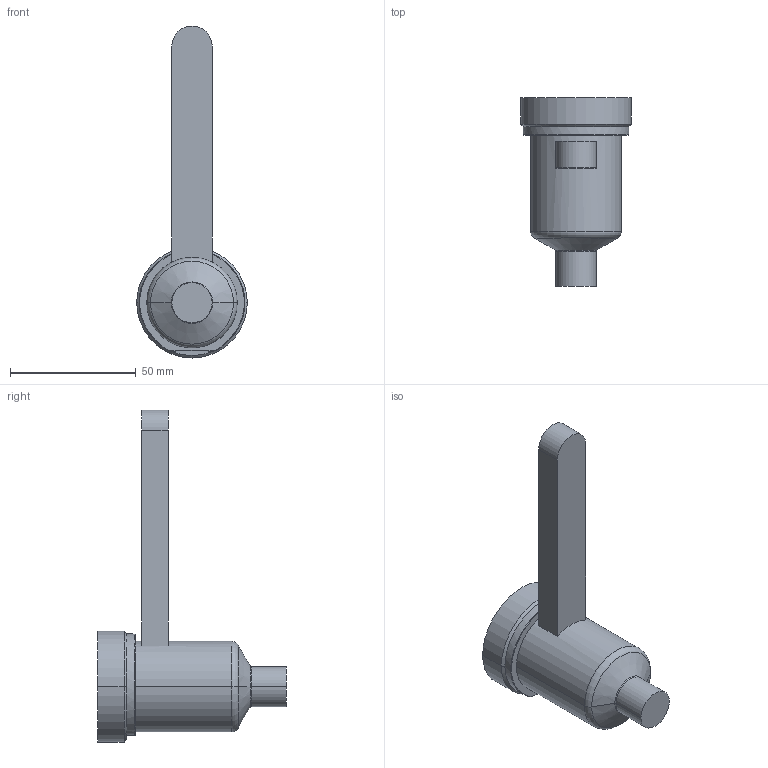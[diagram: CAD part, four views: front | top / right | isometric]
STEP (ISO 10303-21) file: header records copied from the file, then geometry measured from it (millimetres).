
FILE_DESCRIPTION((''),'2;1');
FILE_NAME('EO12_VG-FBE_STD_050_COT','2024-02-19T14:03:04',('sundharh'),(''),'CREO PARAMETRIC BY PTC INC, 2023154','CREO PARAMETRIC BY PTC INC, 2023154','');
FILE_SCHEMA(('CONFIG_CONTROL_DESIGN'));
Length unit declared in the file: millimetre
Products named in the file (1): EO12_VG-FBE_STD_050_COT
Bounding box: 44 x 75 x 132 mm (x, y, z)
Volume: 84151.1 mm3; surface area: 15121 mm2
Topology: 1 solids, 1 shells, 31 faces, 67 edges, 40 vertices
Faces by surface type: cylinder 11, plane 9, torus 7, cone 4
Entity records: 951 total; most frequent: CARTESIAN_POINT 218, DIRECTION 159, ORIENTED_EDGE 134, AXIS2_PLACEMENT_3D 67, EDGE_CURVE 67, VERTEX_POINT 40, CIRCLE 36, EDGE_LOOP 33
